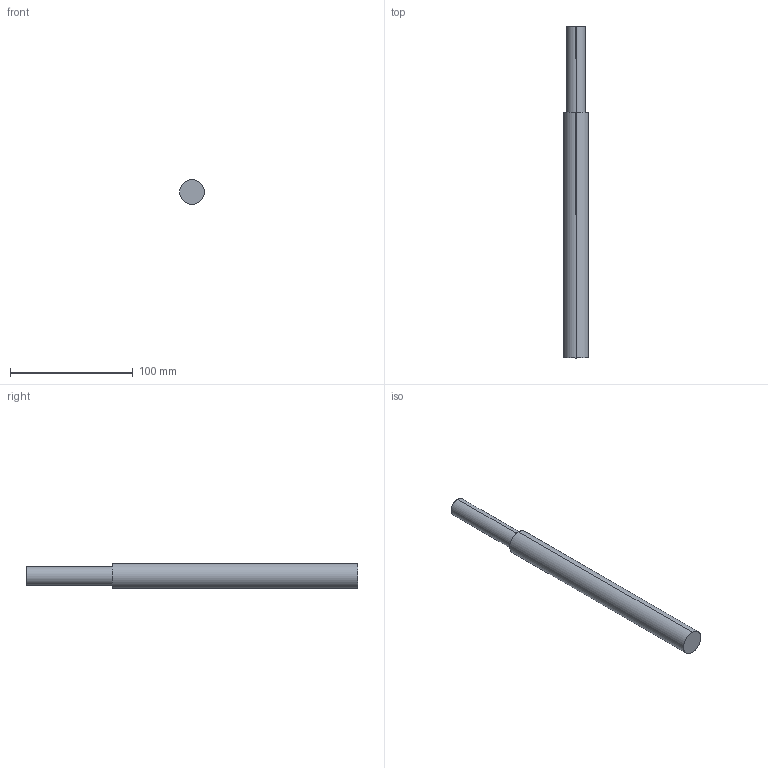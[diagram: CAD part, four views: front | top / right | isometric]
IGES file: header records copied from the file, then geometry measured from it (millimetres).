
Start section: SolidWorks IGES file using analytic representation for surfaces
Global section: file name: C:\Users\sebas\Documents\SOLIDWORKSComposer\TESIS\3. Dosificadora\IGS\Columna de caja base.IGS; native system: SolidWorks 2022; preprocessor: SolidWorks 2022; author: sebas; date: 220619.065646; units: millimetre
Bounding box: 20 x 270 x 20 mm (x, y, z)
Surface area: 16493.4 mm2 (no closed solid volume)
Topology: 0 solids, 0 shells, 7 faces, 144 edges, 144 vertices
Faces by surface type: revolution 4, bspline 3
